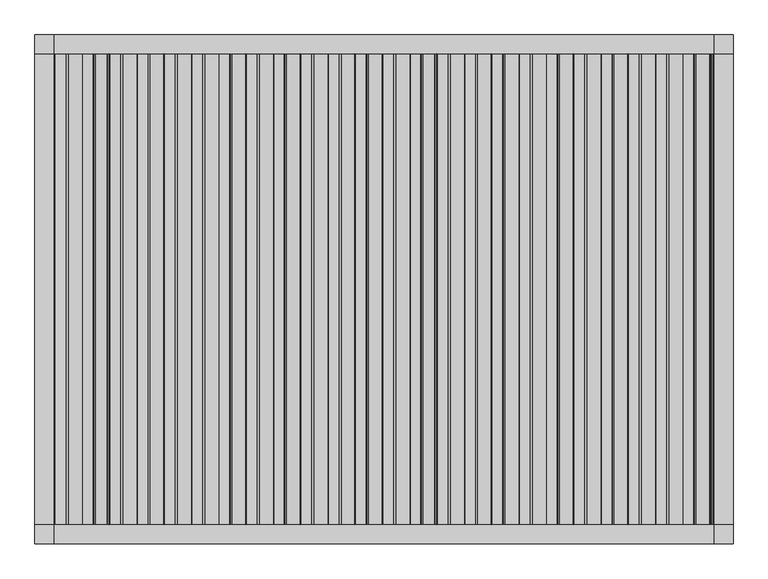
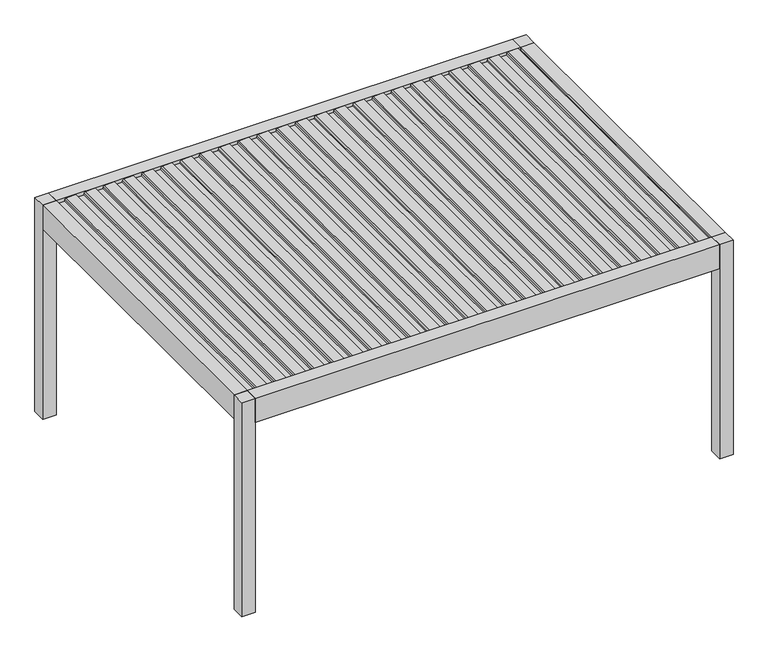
"""IFC4 building model written with IfcOpenShell, lengths in millimetres: proxy geometry, Renson_Amani_Patio_Cover : Renson_Amani_Patio_Cover."""

from ifc_helpers import new_model, si_unit, point, frame, frame_2d, origin, origin_with_axes, place, context, project, spatial, polyline, circle_curve, trimmed, segment, composite_curve, outline, extrude, source, transform, mapped, element, save


def generic_models_629fc401(model_context):
    return source(origin(), model_context, "Body", "SweptSolid", [
        extrude(outline(composite_curve([segment(polyline([(2483.35, 2323.7371235), (2511.01198, 2326.1572332), (2512.3970364, 2354.9924836), (2531.8911096, 2351.5551526), (2526.6075693, 2241.5580377)]), True, "CONTINUOUS"), segment(trimmed(circle_curve(frame_2d((2511.6248435, 2242.2777096)), 15.0), [point((2526.6075693, 2241.5580377))], [point((2514.2295662, 2227.5055933))], False, "CARTESIAN"), True, "CONTINUOUS"), segment(polyline([(2514.2295662, 2227.5055933), (2495.0, 2224.114902), (2495.0, 2136.379126), (2512.0788237, 2133.3676686), (2511.3450182, 2118.0906981), (2483.35, 2115.6414514), (2483.35, 2323.7371235)]), True, "CONTINUOUS")], self_intersect=False)), frame((0.0, -1855.0, 0.0), z_axis=(0.0, 1.0, 0.0), x_axis=(0.0, 0.0, 1.0)), (0.0, 0.0, 1.0), 3710.0),
        extrude(outline(composite_curve([segment(polyline([(2483.35, 2108.7296071), (2511.01198, 2111.1497168), (2512.3970364, 2139.9849673), (2531.8911096, 2136.5476362), (2526.6075693, 2026.5505213)]), True, "CONTINUOUS"), segment(trimmed(circle_curve(frame_2d((2511.6248435, 2027.2701933)), 15.0), [point((2526.6075693, 2026.5505213))], [point((2514.2295662, 2012.498077))], False, "CARTESIAN"), True, "CONTINUOUS"), segment(polyline([(2514.2295662, 2012.498077), (2495.0, 2009.1073856), (2495.0, 1921.3716096), (2512.0788237, 1918.3601522), (2511.3450182, 1903.0831817), (2483.35, 1900.633935), (2483.35, 2108.7296071)]), True, "CONTINUOUS")], self_intersect=False)), frame((0.0, -1855.0, 0.0), z_axis=(0.0, 1.0, 0.0), x_axis=(0.0, 0.0, 1.0)), (0.0, 0.0, 1.0), 3710.0),
        extrude(outline(composite_curve([segment(polyline([(2483.35, 1893.7220908), (2511.01198, 1896.1422004), (2512.3970364, 1924.9774509), (2531.8911096, 1921.5401198), (2526.6075693, 1811.543005)]), True, "CONTINUOUS"), segment(trimmed(circle_curve(frame_2d((2511.6248435, 1812.2626769)), 15.0), [point((2526.6075693, 1811.543005))], [point((2514.2295662, 1797.4905606))], False, "CARTESIAN"), True, "CONTINUOUS"), segment(polyline([(2514.2295662, 1797.4905606), (2495.0, 1794.0998693), (2495.0, 1706.3640932), (2512.0788237, 1703.3526358), (2511.3450182, 1688.0756653), (2483.35, 1685.6264186), (2483.35, 1893.7220908)]), True, "CONTINUOUS")], self_intersect=False)), frame((0.0, -1855.0, 0.0), z_axis=(0.0, 1.0, 0.0), x_axis=(0.0, 0.0, 1.0)), (0.0, 0.0, 1.0), 3710.0),
        extrude(outline(composite_curve([segment(polyline([(2483.35, 1678.7145744), (2511.01198, 1681.1346841), (2512.3970364, 1709.9699345), (2531.8911096, 1706.5326034), (2526.6075693, 1596.5354886)]), True, "CONTINUOUS"), segment(trimmed(circle_curve(frame_2d((2511.6248435, 1597.2551605)), 15.0), [point((2526.6075693, 1596.5354886))], [point((2514.2295662, 1582.4830442))], False, "CARTESIAN"), True, "CONTINUOUS"), segment(polyline([(2514.2295662, 1582.4830442), (2495.0, 1579.0923529), (2495.0, 1491.3565769), (2512.0788237, 1488.3451194), (2511.3450182, 1473.068149), (2483.35, 1470.6189022), (2483.35, 1678.7145744)]), True, "CONTINUOUS")], self_intersect=False)), frame((0.0, -1855.0, 0.0), z_axis=(0.0, 1.0, 0.0), x_axis=(0.0, 0.0, 1.0)), (0.0, 0.0, 1.0), 3710.0),
        extrude(outline(composite_curve([segment(polyline([(2483.35, 1463.707058), (2511.01198, 1466.1271677), (2512.3970364, 1494.9624182), (2531.8911096, 1491.5250871), (2526.6075693, 1381.5279722)]), True, "CONTINUOUS"), segment(trimmed(circle_curve(frame_2d((2511.6248435, 1382.2476442)), 15.0), [point((2526.6075693, 1381.5279722))], [point((2514.2295662, 1367.4755279))], False, "CARTESIAN"), True, "CONTINUOUS"), segment(polyline([(2514.2295662, 1367.4755279), (2495.0, 1364.0848365), (2495.0, 1276.3490605), (2512.0788237, 1273.3376031), (2511.3450182, 1258.0606326), (2483.35, 1255.6113859), (2483.35, 1463.707058)]), True, "CONTINUOUS")], self_intersect=False)), frame((0.0, -1855.0, 0.0), z_axis=(0.0, 1.0, 0.0), x_axis=(0.0, 0.0, 1.0)), (0.0, 0.0, 1.0), 3710.0),
        extrude(outline(composite_curve([segment(polyline([(2483.35, 1248.6995417), (2511.01198, 1251.1196513), (2512.3970364, 1279.9549018), (2531.8911096, 1276.5175707), (2526.6075693, 1166.5204559)]), True, "CONTINUOUS"), segment(trimmed(circle_curve(frame_2d((2511.6248435, 1167.2401278)), 15.0), [point((2526.6075693, 1166.5204559))], [point((2514.2295662, 1152.4680115))], False, "CARTESIAN"), True, "CONTINUOUS"), segment(polyline([(2514.2295662, 1152.4680115), (2495.0, 1149.0773201), (2495.0, 1061.3415441), (2512.0788237, 1058.3300867), (2511.3450182, 1043.0531162), (2483.35, 1040.6038695), (2483.35, 1248.6995417)]), True, "CONTINUOUS")], self_intersect=False)), frame((0.0, -1855.0, 0.0), z_axis=(0.0, 1.0, 0.0), x_axis=(0.0, 0.0, 1.0)), (0.0, 0.0, 1.0), 3710.0),
        extrude(outline(composite_curve([segment(polyline([(2483.35, 1033.6920253), (2511.01198, 1036.112135), (2512.3970364, 1064.9473854), (2531.8911096, 1061.5100543), (2526.6075693, 951.5129395)]), True, "CONTINUOUS"), segment(trimmed(circle_curve(frame_2d((2511.6248435, 952.2326114)), 15.0), [point((2526.6075693, 951.5129395))], [point((2514.2295662, 937.4604951))], False, "CARTESIAN"), True, "CONTINUOUS"), segment(polyline([(2514.2295662, 937.4604951), (2495.0, 934.0698038), (2495.0, 846.3340277), (2512.0788237, 843.3225703), (2511.3450182, 828.0455999), (2483.35, 825.5963531), (2483.35, 1033.6920253)]), True, "CONTINUOUS")], self_intersect=False)), frame((0.0, -1855.0, 0.0), z_axis=(0.0, 1.0, 0.0), x_axis=(0.0, 0.0, 1.0)), (0.0, 0.0, 1.0), 3710.0),
        extrude(outline(composite_curve([segment(polyline([(2483.35, 818.6845089), (2511.01198, 821.1046186), (2512.3970364, 849.939869), (2531.8911096, 846.502538), (2526.6075693, 736.5054231)]), True, "CONTINUOUS"), segment(trimmed(circle_curve(frame_2d((2511.6248435, 737.225095)), 15.0), [point((2526.6075693, 736.5054231))], [point((2514.2295662, 722.4529787))], False, "CARTESIAN"), True, "CONTINUOUS"), segment(polyline([(2514.2295662, 722.4529787), (2495.0, 719.0622874), (2495.0, 631.3265114), (2512.0788237, 628.315054), (2511.3450182, 613.0380835), (2483.35, 610.5888368), (2483.35, 818.6845089)]), True, "CONTINUOUS")], self_intersect=False)), frame((0.0, -1855.0, 0.0), z_axis=(0.0, 1.0, 0.0), x_axis=(0.0, 0.0, 1.0)), (0.0, 0.0, 1.0), 3710.0),
        extrude(outline(composite_curve([segment(polyline([(2483.35, 603.6769926), (2511.01198, 606.0971022), (2512.3970364, 634.9323527), (2531.8911096, 631.4950216), (2526.6075693, 521.4979067)]), True, "CONTINUOUS"), segment(trimmed(circle_curve(frame_2d((2511.6248435, 522.2175787)), 15.0), [point((2526.6075693, 521.4979067))], [point((2514.2295662, 507.4454624))], False, "CARTESIAN"), True, "CONTINUOUS"), segment(polyline([(2514.2295662, 507.4454624), (2495.0, 504.054771), (2495.0, 416.318995), (2512.0788237, 413.3075376), (2511.3450182, 398.0305671), (2483.35, 395.5813204), (2483.35, 603.6769926)]), True, "CONTINUOUS")], self_intersect=False)), frame((0.0, -1855.0, 0.0), z_axis=(0.0, 1.0, 0.0), x_axis=(0.0, 0.0, 1.0)), (0.0, 0.0, 1.0), 3710.0),
        extrude(outline(composite_curve([segment(polyline([(2483.35, 388.6694762), (2511.01198, 391.0895858), (2512.3970364, 419.9248363), (2531.8911096, 416.4875052), (2526.6075693, 306.4903904)]), True, "CONTINUOUS"), segment(trimmed(circle_curve(frame_2d((2511.6248435, 307.2100623)), 15.0), [point((2526.6075693, 306.4903904))], [point((2514.2295662, 292.437946))], False, "CARTESIAN"), True, "CONTINUOUS"), segment(polyline([(2514.2295662, 292.437946), (2495.0, 289.0472547), (2495.0, 201.3114786), (2512.0788237, 198.3000212), (2511.3450182, 183.0230508), (2483.35, 180.573804), (2483.35, 388.6694762)]), True, "CONTINUOUS")], self_intersect=False)), frame((0.0, -1855.0, 0.0), z_axis=(0.0, 1.0, 0.0), x_axis=(0.0, 0.0, 1.0)), (0.0, 0.0, 1.0), 3710.0),
        extrude(outline(composite_curve([segment(polyline([(2483.35, 173.6619598), (2511.01198, 176.0820695), (2512.3970364, 204.9173199), (2531.8911096, 201.4799889), (2526.6075693, 91.482874)]), True, "CONTINUOUS"), segment(trimmed(circle_curve(frame_2d((2511.6248435, 92.2025459)), 15.0), [point((2526.6075693, 91.482874))], [point((2514.2295662, 77.4304296))], False, "CARTESIAN"), True, "CONTINUOUS"), segment(polyline([(2514.2295662, 77.4304296), (2495.0, 74.0397383), (2495.0, -13.6960377), (2512.0788237, -16.7074951), (2511.3450182, -31.9844656), (2483.35, -34.4337123), (2483.35, 173.6619598)]), True, "CONTINUOUS")], self_intersect=False)), frame((0.0, -1855.0, 0.0), z_axis=(0.0, 1.0, 0.0), x_axis=(0.0, 0.0, 1.0)), (0.0, 0.0, 1.0), 3710.0),
        extrude(outline(composite_curve([segment(polyline([(2483.35, -41.3455566), (2511.01198, -38.9254469), (2512.3970364, -10.0901964), (2531.8911096, -13.5275275), (2526.6075693, -123.5246424)]), True, "CONTINUOUS"), segment(trimmed(circle_curve(frame_2d((2511.6248435, -122.8049704)), 15.0), [point((2526.6075693, -123.5246424))], [point((2514.2295662, -137.5770867))], False, "CARTESIAN"), True, "CONTINUOUS"), segment(polyline([(2514.2295662, -137.5770867), (2495.0, -140.9677781), (2495.0, -228.7035541), (2512.0788237, -231.7150115), (2511.3450182, -246.991982), (2483.35, -249.4412287), (2483.35, -41.3455566)]), True, "CONTINUOUS")], self_intersect=False)), frame((0.0, -1855.0, 0.0), z_axis=(0.0, 1.0, 0.0), x_axis=(0.0, 0.0, 1.0)), (0.0, 0.0, 1.0), 3710.0),
        extrude(outline(composite_curve([segment(polyline([(2483.35, -256.3530729), (2511.01198, -253.9329633), (2512.3970364, -225.0977128), (2531.8911096, -228.5350439), (2526.6075693, -338.5321587)]), True, "CONTINUOUS"), segment(trimmed(circle_curve(frame_2d((2511.6248435, -337.8124868)), 15.0), [point((2526.6075693, -338.5321587))], [point((2514.2295662, -352.5846031))], False, "CARTESIAN"), True, "CONTINUOUS"), segment(polyline([(2514.2295662, -352.5846031), (2495.0, -355.9752944), (2495.0, -443.7110705), (2512.0788237, -446.7225279), (2511.3450182, -461.9994984), (2483.35, -464.4487451), (2483.35, -256.3530729)]), True, "CONTINUOUS")], self_intersect=False)), frame((0.0, -1855.0, 0.0), z_axis=(0.0, 1.0, 0.0), x_axis=(0.0, 0.0, 1.0)), (0.0, 0.0, 1.0), 3710.0),
        extrude(outline(composite_curve([segment(polyline([(2483.35, -471.3605893), (2511.01198, -468.9404796), (2512.3970364, -440.1052292), (2531.8911096, -443.5425603), (2526.6075693, -553.5396751)]), True, "CONTINUOUS"), segment(trimmed(circle_curve(frame_2d((2511.6248435, -552.8200032)), 15.0), [point((2526.6075693, -553.5396751))], [point((2514.2295662, -567.5921195))], False, "CARTESIAN"), True, "CONTINUOUS"), segment(polyline([(2514.2295662, -567.5921195), (2495.0, -570.9828108), (2495.0, -658.7185868), (2512.0788237, -661.7300443), (2511.3450182, -677.0070147), (2483.35, -679.4562615), (2483.35, -471.3605893)]), True, "CONTINUOUS")], self_intersect=False)), frame((0.0, -1855.0, 0.0), z_axis=(0.0, 1.0, 0.0), x_axis=(0.0, 0.0, 1.0)), (0.0, 0.0, 1.0), 3710.0),
        extrude(outline(composite_curve([segment(polyline([(2483.35, -686.3681057), (2511.01198, -683.947996), (2512.3970364, -655.1127455), (2531.8911096, -658.5500766), (2526.6075693, -768.5471915)]), True, "CONTINUOUS"), segment(trimmed(circle_curve(frame_2d((2511.6248435, -767.8275195)), 15.0), [point((2526.6075693, -768.5471915))], [point((2514.2295662, -782.5996358))], False, "CARTESIAN"), True, "CONTINUOUS"), segment(polyline([(2514.2295662, -782.5996358), (2495.0, -785.9903272), (2495.0, -873.7261032), (2512.0788237, -876.7375606), (2511.3450182, -892.0145311), (2483.35, -894.4637778), (2483.35, -686.3681057)]), True, "CONTINUOUS")], self_intersect=False)), frame((0.0, -1855.0, 0.0), z_axis=(0.0, 1.0, 0.0), x_axis=(0.0, 0.0, 1.0)), (0.0, 0.0, 1.0), 3710.0),
        extrude(outline(composite_curve([segment(polyline([(2483.35, -901.375622), (2511.01198, -898.9555124), (2512.3970364, -870.1202619), (2531.8911096, -873.557593), (2526.6075693, -983.5547078)]), True, "CONTINUOUS"), segment(trimmed(circle_curve(frame_2d((2511.6248435, -982.8350359)), 15.0), [point((2526.6075693, -983.5547078))], [point((2514.2295662, -997.6071522))], False, "CARTESIAN"), True, "CONTINUOUS"), segment(polyline([(2514.2295662, -997.6071522), (2495.0, -1000.9978436), (2495.0, -1088.7336196), (2512.0788237, -1091.745077), (2511.3450182, -1107.0220475), (2483.35, -1109.4712942), (2483.35, -901.375622)]), True, "CONTINUOUS")], self_intersect=False)), frame((0.0, -1855.0, 0.0), z_axis=(0.0, 1.0, 0.0), x_axis=(0.0, 0.0, 1.0)), (0.0, 0.0, 1.0), 3710.0),
        extrude(outline(composite_curve([segment(polyline([(2483.35, -1116.3831384), (2511.01198, -1113.9630287), (2512.3970364, -1085.1277783), (2531.8911096, -1088.5651094), (2526.6075693, -1198.5622242)]), True, "CONTINUOUS"), segment(trimmed(circle_curve(frame_2d((2511.6248435, -1197.8425523)), 15.0), [point((2526.6075693, -1198.5622242))], [point((2514.2295662, -1212.6146686))], False, "CARTESIAN"), True, "CONTINUOUS"), segment(polyline([(2514.2295662, -1212.6146686), (2495.0, -1216.0053599), (2495.0, -1303.741136), (2512.0788237, -1306.7525934), (2511.3450182, -1322.0295638), (2483.35, -1324.4788106), (2483.35, -1116.3831384)]), True, "CONTINUOUS")], self_intersect=False)), frame((0.0, -1855.0, 0.0), z_axis=(0.0, 1.0, 0.0), x_axis=(0.0, 0.0, 1.0)), (0.0, 0.0, 1.0), 3710.0),
        extrude(outline(composite_curve([segment(polyline([(2483.35, -1331.3906548), (2511.01198, -1328.9705451), (2512.3970364, -1300.1352947), (2531.8911096, -1303.5726257), (2526.6075693, -1413.5697406)]), True, "CONTINUOUS"), segment(trimmed(circle_curve(frame_2d((2511.6248435, -1412.8500687)), 15.0), [point((2526.6075693, -1413.5697406))], [point((2514.2295662, -1427.6221849))], False, "CARTESIAN"), True, "CONTINUOUS"), segment(polyline([(2514.2295662, -1427.6221849), (2495.0, -1431.0128763), (2495.0, -1518.7486523), (2512.0788237, -1521.7601097), (2511.3450182, -1537.0370802), (2483.35, -1539.4863269), (2483.35, -1331.3906548)]), True, "CONTINUOUS")], self_intersect=False)), frame((0.0, -1855.0, 0.0), z_axis=(0.0, 1.0, 0.0), x_axis=(0.0, 0.0, 1.0)), (0.0, 0.0, 1.0), 3710.0),
        extrude(outline(composite_curve([segment(polyline([(2483.35, -1546.3981711), (2511.01198, -1543.9780615), (2512.3970364, -1515.142811), (2531.8911096, -1518.5801421), (2526.6075693, -1628.577257)]), True, "CONTINUOUS"), segment(trimmed(circle_curve(frame_2d((2511.6248435, -1627.857585)), 15.0), [point((2526.6075693, -1628.577257))], [point((2514.2295662, -1642.6297013))], False, "CARTESIAN"), True, "CONTINUOUS"), segment(polyline([(2514.2295662, -1642.6297013), (2495.0, -1646.0203927), (2495.0, -1733.7561687), (2512.0788237, -1736.7676261), (2511.3450182, -1752.0445966), (2483.35, -1754.4938433), (2483.35, -1546.3981711)]), True, "CONTINUOUS")], self_intersect=False)), frame((0.0, -1855.0, 0.0), z_axis=(0.0, 1.0, 0.0), x_axis=(0.0, 0.0, 1.0)), (0.0, 0.0, 1.0), 3710.0),
        extrude(outline(composite_curve([segment(polyline([(2483.35, -1761.4056875), (2511.01198, -1758.9855779), (2512.3970364, -1730.1503274), (2531.8911096, -1733.5876585), (2526.6075693, -1843.5847733)]), True, "CONTINUOUS"), segment(trimmed(circle_curve(frame_2d((2511.6248435, -1842.8651014)), 15.0), [point((2526.6075693, -1843.5847733))], [point((2514.2295662, -1857.6372177))], False, "CARTESIAN"), True, "CONTINUOUS"), segment(polyline([(2514.2295662, -1857.6372177), (2495.0, -1861.027909), (2495.0, -1948.7636851), (2512.0788237, -1951.7751425), (2511.3450182, -1967.0521129), (2483.35, -1969.5013597), (2483.35, -1761.4056875)]), True, "CONTINUOUS")], self_intersect=False)), frame((0.0, -1855.0, 0.0), z_axis=(0.0, 1.0, 0.0), x_axis=(0.0, 0.0, 1.0)), (0.0, 0.0, 1.0), 3710.0),
        extrude(outline(composite_curve([segment(polyline([(2483.35, -1976.4132039), (2511.01198, -1973.9930942), (2512.3970364, -1945.1578438), (2531.8911096, -1948.5951748), (2526.6075693, -2058.5922897)]), True, "CONTINUOUS"), segment(trimmed(circle_curve(frame_2d((2511.6248435, -2057.8726178)), 15.0), [point((2526.6075693, -2058.5922897))], [point((2514.2295662, -2072.6447341))], False, "CARTESIAN"), True, "CONTINUOUS"), segment(polyline([(2514.2295662, -2072.6447341), (2495.0, -2076.0354254), (2495.0, -2163.7712014), (2512.0788237, -2166.7826588), (2511.3450182, -2182.0596293), (2483.35, -2184.508876), (2483.35, -1976.4132039)]), True, "CONTINUOUS")], self_intersect=False)), frame((0.0, -1855.0, 0.0), z_axis=(0.0, 1.0, 0.0), x_axis=(0.0, 0.0, 1.0)), (0.0, 0.0, 1.0), 3710.0),
        extrude(outline(composite_curve([segment(polyline([(2483.35, -2191.4207203), (2511.01198, -2189.0006106), (2512.3970364, -2160.1653601), (2531.8911096, -2163.6026912), (2526.6075693, -2273.5998061)]), True, "CONTINUOUS"), segment(trimmed(circle_curve(frame_2d((2511.6248435, -2272.8801341)), 15.0), [point((2526.6075693, -2273.5998061))], [point((2514.2295662, -2287.6522504))], False, "CARTESIAN"), True, "CONTINUOUS"), segment(polyline([(2514.2295662, -2287.6522504), (2495.0, -2291.0429418), (2495.0, -2378.7787178), (2512.0788237, -2381.7901752), (2511.3450182, -2397.0671457), (2483.35, -2399.5163924), (2483.35, -2191.4207203)]), True, "CONTINUOUS")], self_intersect=False)), frame((0.0, -1855.0, 0.0), z_axis=(0.0, 1.0, 0.0), x_axis=(0.0, 0.0, 1.0)), (0.0, 0.0, 1.0), 3710.0),
        extrude(outline(composite_curve([segment(polyline([(2483.35, 2538.7446399), (2511.01198, 2541.1647495), (2512.3970364, 2570.0), (2531.8911096, 2566.5626689), (2526.6075693, 2456.5655541)]), True, "CONTINUOUS"), segment(trimmed(circle_curve(frame_2d((2511.6248435, 2457.285226)), 15.0), [point((2526.6075693, 2456.5655541))], [point((2514.2295662, 2442.5131097))], False, "CARTESIAN"), True, "CONTINUOUS"), segment(polyline([(2514.2295662, 2442.5131097), (2495.0, 2439.1224184), (2495.0, 2351.3866423), (2512.0788237, 2348.3751849), (2511.3450182, 2333.0982144), (2483.35, 2330.6489677), (2483.35, 2538.7446399)]), True, "CONTINUOUS")], self_intersect=False)), frame((0.0, -1855.0, 0.0), z_axis=(0.0, 1.0, 0.0), x_axis=(0.0, 0.0, 1.0)), (0.0, 0.0, 1.0), 3710.0),
        extrude(outline(composite_curve([segment(polyline([(2483.35, -2406.4282366), (2511.01198, -2404.008127), (2512.3970364, -2375.1728765), (2531.8911096, -2378.6102076), (2526.6075693, -2488.6073224)]), True, "CONTINUOUS"), segment(trimmed(circle_curve(frame_2d((2511.6248435, -2487.8876505)), 15.0), [point((2526.6075693, -2488.6073224))], [point((2514.2295662, -2502.6597668))], False, "CARTESIAN"), True, "CONTINUOUS"), segment(polyline([(2514.2295662, -2502.6597668), (2495.0, -2506.0504581), (2495.0, -2593.7862342), (2512.0788237, -2596.7976916), (2511.3450182, -2612.0746621), (2483.35, -2614.5239088), (2483.35, -2406.4282366)]), True, "CONTINUOUS")], self_intersect=False)), frame((0.0, -1855.0, 0.0), z_axis=(0.0, 1.0, 0.0), x_axis=(0.0, 0.0, 1.0)), (0.0, 0.0, 1.0), 3710.0),
        extrude(outline(polyline([(2750.0, -1855.0), (2750.0, -2005.0), (2600.0, -2005.0), (2600.0, -1855.0), (2750.0, -1855.0)])), origin_with_axes(), (0.0, 0.0, 1.0), 2535.0),
        extrude(outline(polyline([(2750.0, 2005.0), (2750.0, 1855.0), (2600.0, 1855.0), (2600.0, 2005.0), (2750.0, 2005.0)])), origin_with_axes(), (0.0, 0.0, 1.0), 2535.0),
        extrude(outline(polyline([(-2600.0, 1855.0), (-2750.0, 1855.0), (-2750.0, 2005.0), (-2600.0, 2005.0), (-2600.0, 1855.0)])), origin_with_axes(), (0.0, 0.0, 1.0), 2535.0),
        extrude(outline(polyline([(-2600.0, -1855.0), (-2600.0, -2005.0), (-2750.0, -2005.0), (-2750.0, -1855.0), (-2600.0, -1855.0)])), origin_with_axes(), (0.0, 0.0, 1.0), 2535.0),
        extrude(outline(polyline([(2466.6559373, -2600.0), (2466.6559373, -2574.0), (2480.6555802, -2570.2487113), (2480.6555802, -2579.5940945), (2496.400763, -2595.0), (2504.2449277, -2595.0), (2504.6823598, -2600.0), (2466.6559373, -2600.0)])), frame((0.0, -1855.0, 0.0), z_axis=(0.0, 1.0, 0.0), x_axis=(0.0, 0.0, 1.0)), (0.0, 0.0, 1.0), 3710.0),
        extrude(outline(polyline([(-2600.0, -1855.0), (-2750.0, -1855.0), (-2750.0, 1855.0), (-2600.0, 1855.0), (-2600.0, -1855.0)])), frame((0.0, 0.0, 2250.0), z_axis=(0.0, 0.0, 1.0), x_axis=(1.0, 0.0, 0.0)), (0.0, 0.0, 1.0), 285.0),
        extrude(outline(polyline([(2535.0, 2750.0), (2535.0, 2600.0), (2504.6904658, 2600.0), (2504.2449277, 2595.0), (2496.400763, 2595.0), (2480.6555802, 2579.2544156), (2480.6555802, 2569.9090324), (2466.6559373, 2573.6603211), (2466.6559373, 2600.0), (2250.0, 2600.0), (2250.0, 2750.0), (2535.0, 2750.0)])), frame((0.0, -1855.0, 0.0), z_axis=(0.0, 1.0, 0.0), x_axis=(0.0, 0.0, 1.0)), (0.0, 0.0, 1.0), 3710.0),
        extrude(outline(polyline([(-1855.0, 2535.0), (-1855.0, 2322.0), (-1785.0000001, 2322.0), (-1785.0000001, 2250.0), (-2005.0, 2250.0), (-2005.0, 2535.0), (-1855.0, 2535.0)])), frame((-2600.0, 0.0, 0.0), z_axis=(1.0, 0.0, 0.0), x_axis=(0.0, 1.0, 0.0)), (0.0, 0.0, 1.0), 5200.0),
        extrude(outline(polyline([(2005.0, 2250.0), (1785.0000001, 2250.0), (1785.0000001, 2322.0), (1855.0, 2322.0), (1855.0, 2535.0), (2005.0, 2535.0), (2005.0, 2250.0)])), frame((-2600.0, 0.0, 0.0), z_axis=(1.0, 0.0, 0.0), x_axis=(0.0, 1.0, 0.0)), (0.0, 0.0, 1.0), 5200.0),
    ])


if __name__ == "__main__":
    model = new_model("IFC4")
    model_context = context("Model", 3, world=origin())
    ifc_project = project(units=[si_unit("LENGTHUNIT", "METRE", prefix="MILLI")], contexts=[model_context])
    site = spatial("IfcSite", under=ifc_project)
    building = spatial("IfcBuilding", under=site)
    placement = place(None, origin())
    generic_models_shape = generic_models_629fc401(model_context)
    element("IfcBuildingElementProxy", 1, Name="Renson_Amani_Patio_Cover : Renson_Amani_Patio_Cover", ObjectType="Renson_Amani_Patio_Cover : Renson_Amani_Patio_Cover", at=placement, inside=building, context=model_context, shape_type="MappedRepresentation", body=[
        mapped(generic_models_shape, transform((0.0, 0.0, 0.0), x_axis=(1.0, 0.0, 0.0), y_axis=(0.0, 1.0, 0.0), z_axis=(0.0, 0.0, 1.0))),
    ])
    save(model, "model.ifc")
